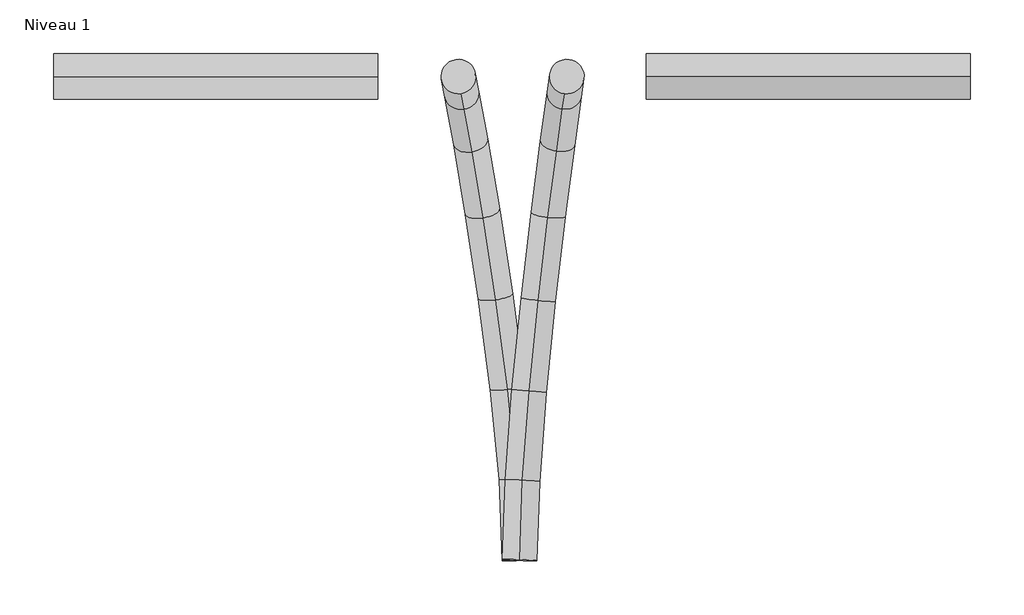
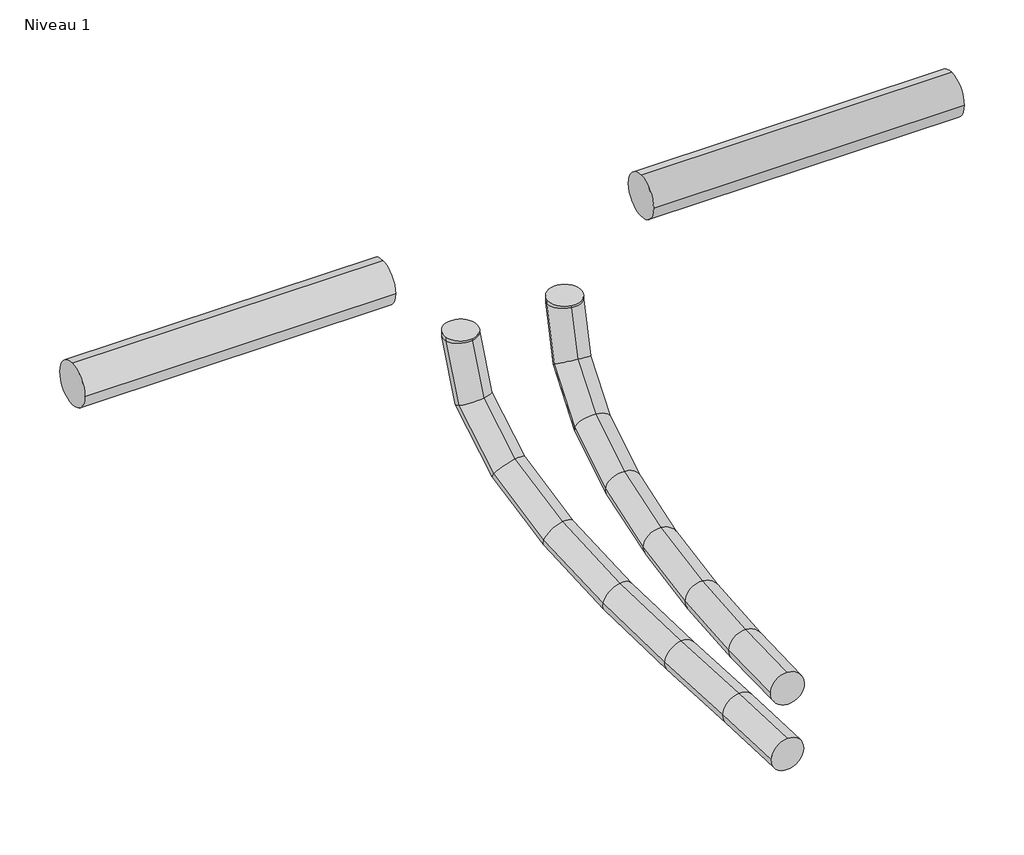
# One storey, incomplete: 4 pipe segments.
"""IFC4 building model written with IfcOpenShell, lengths in millimetres."""

from ifc_helpers import new_model, si_unit, point, frame, frame_2d, origin, place, context, project, spatial, circle_curve, ellipse_curve, trimmed, segment, composite_curve, outline, extrude, element, save
from ifc_brep_helpers import plane_surface, cylinder_surface, advanced_brep

model = new_model("IFC4")

# Units and contexts
model_context = context("Model", 3, world=origin())
ifc_project = project(units=[si_unit("LENGTHUNIT", "METRE", prefix="MILLI")], contexts=[model_context])

# Site, building, storey
site = spatial("IfcSite", under=ifc_project)
building = spatial("IfcBuilding", under=site)
storey = spatial("IfcBuildingStorey", under=building, Name="Niveau 1", Elevation=0.0)

# Pipe segments
placement = place(None, origin())
element("IfcPipeSegment", 1, ObjectType="Souple - Circulaire", at=placement, inside=storey, context=model_context, shape_type="AdvancedBrep", body=[
    advanced_brep(
    [(-1216.3874721, -8798.1882314, 609.8282029), (-1200.4090751, -8799.1079695, 593.8330502), (-1184.4047781, -8799.240506, 609.8282029), (-1200.3831751, -8798.3207679, 625.8233557), (-1213.9533042, -8724.2044519, 608.0056759), (-1197.9879974, -8725.5220509, 592.0203242), (-1181.9927997, -8725.9311526, 608.0222898), (-1197.9581065, -8724.6135535, 624.0076416), (-1172.5122952, -8348.0022131, 723.8970087), (-1158.7726143, -8365.9805659, 723.8970087), (-1140.7942615, -8352.240885, 723.8970087), (-1154.5339424, -8334.2625322, 723.8970087), (-1207.6638719, -8640.6052786, 605.3070948), (-1191.7201115, -8642.2092726, 589.3309879), (-1175.7842758, -8643.4074142, 605.3584238), (-1191.7280362, -8641.8034202, 621.3345307), (-1199.0856646, -8555.355471, 605.9033641), (-1183.0696164, -8556.2410728, 589.9322819), (-1167.2734409, -8558.82715, 605.95001), (-1183.2894891, -8557.9415483, 621.9210922), (-1189.7495689, -8475.9236058, 613.9373105), (-1173.4998418, -8474.8210585, 598.1673148), (-1157.9901325, -8479.8444016, 613.9385315), (-1174.2398596, -8480.9469489, 629.7085272), (-1181.1871297, -8409.8470625, 633.5490458), (-1164.3992138, -8404.5912997, 619.0117382), (-1149.4635295, -8414.0444075, 633.4681862), (-1166.2514454, -8419.3001703, 648.0054938), (-1174.9335761, -8364.7061135, 668.847183), (-1157.2967987, -8353.3228886, 659.1012677), (-1143.2191269, -8368.969514, 668.7146709), (-1160.8559042, -8380.3527389, 678.4605863), (-1172.5122952, -8348.0022131, 719.2377922), (-1154.5339424, -8334.2625322, 716.6005912), (-1140.7942615, -8352.240885, 719.179879), (-1158.7726143, -8365.9805659, 721.81708)],
    [
        (0, 1, circle_curve(frame((-1200.3961251, -8798.7143687, 609.8282029), z_axis=(-0.03287361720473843, -0.9991563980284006, 0.024613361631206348), x_axis=(-0.9994591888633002, 0.0328835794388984, 0.0)), 16.0)),
        (1, 2, circle_curve(frame((-1200.3961251, -8798.7143687, 609.8282029), z_axis=(-0.03287361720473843, -0.9991563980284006, 0.024613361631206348), x_axis=(-0.9994591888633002, 0.0328835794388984, 0.0)), 16.0)),
        (2, 3, circle_curve(frame((-1200.3961251, -8798.7143687, 609.8282029), z_axis=(-0.03287361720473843, -0.9991563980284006, 0.024613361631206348), x_axis=(-0.9994591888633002, 0.0328835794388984, 0.0)), 16.0)),
        (3, 0, circle_curve(frame((-1200.3961251, -8798.7143687, 609.8282029), z_axis=(-0.03287361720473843, -0.9991563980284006, 0.024613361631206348), x_axis=(-0.9994591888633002, 0.0328835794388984, 0.0)), 16.0)),
        (0, 4),
        (4, 5, ellipse_curve(frame((-1197.973052, -8725.0678022, 608.0139829), z_axis=(-0.05394036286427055, -0.9981402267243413, 0.028399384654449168), x_axis=(0.9826032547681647, -0.05811939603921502, -0.17638871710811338)), 16.0036742, 16.0)),
        (5, 1),
        (5, 6, ellipse_curve(frame((-1197.973052, -8725.0678022, 608.0139829), z_axis=(-0.05394036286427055, -0.9981402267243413, 0.028399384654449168), x_axis=(0.9826032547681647, -0.05811939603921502, -0.17638871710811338)), 16.0036742, 16.0)),
        (6, 2),
        (6, 7, ellipse_curve(frame((-1197.973052, -8725.0678022, 608.0139829), z_axis=(-0.05394036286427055, -0.9981402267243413, 0.028399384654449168), x_axis=(0.9826032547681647, -0.05811939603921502, -0.17638871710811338)), 16.0036742, 16.0)),
        (7, 3),
        (7, 4, ellipse_curve(frame((-1197.973052, -8725.0678022, 608.0139829), z_axis=(-0.05394036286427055, -0.9981402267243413, 0.028399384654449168), x_axis=(0.9826032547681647, -0.05811939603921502, -0.17638871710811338)), 16.0036742, 16.0)),
        (8, 9, circle_curve(frame((-1156.6532783, -8350.1215491, 723.8970087), z_axis=(0.0, 0.0, 1.0), x_axis=(-0.9911885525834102, 0.13245849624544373, 0.0)), 16.0)),
        (9, 10, circle_curve(frame((-1156.6532783, -8350.1215491, 723.8970087), z_axis=(0.0, 0.0, 1.0), x_axis=(-0.9911885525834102, 0.13245849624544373, 0.0)), 16.0)),
        (10, 11, circle_curve(frame((-1156.6532783, -8350.1215491, 723.8970087), z_axis=(0.0, 0.0, 1.0), x_axis=(-0.9911885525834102, 0.13245849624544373, 0.0)), 16.0)),
        (11, 8, circle_curve(frame((-1156.6532783, -8350.1215491, 723.8970087), z_axis=(0.0, 0.0, 1.0), x_axis=(-0.9911885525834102, 0.13245849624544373, 0.0)), 16.0)),
        (4, 12),
        (12, 13, ellipse_curve(frame((-1191.7240738, -8642.0063464, 605.3327593), z_axis=(-0.08757305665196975, -0.9960782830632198, 0.012610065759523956), x_axis=(0.5400573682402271, -0.03683611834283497, 0.8408217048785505)), 16.0043336, 16.0)),
        (13, 5),
        (13, 14, ellipse_curve(frame((-1191.7240738, -8642.0063464, 605.3327593), z_axis=(-0.08757305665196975, -0.9960782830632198, 0.012610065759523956), x_axis=(0.5400573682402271, -0.03683611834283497, 0.8408217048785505)), 16.0043336, 16.0)),
        (14, 6),
        (14, 15, ellipse_curve(frame((-1191.7240738, -8642.0063464, 605.3327593), z_axis=(-0.08757305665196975, -0.9960782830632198, 0.012610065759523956), x_axis=(0.5400573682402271, -0.03683611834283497, 0.8408217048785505)), 16.0043336, 16.0)),
        (15, 7),
        (15, 12, ellipse_curve(frame((-1191.7240738, -8642.0063464, 605.3327593), z_axis=(-0.08757305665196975, -0.9960782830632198, 0.012610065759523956), x_axis=(0.5400573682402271, -0.03683611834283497, 0.8408217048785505)), 16.0043336, 16.0)),
        (12, 16),
        (16, 17, ellipse_curve(frame((-1183.1795528, -8557.0913105, 605.9266871), z_axis=(-0.10825326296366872, -0.9926819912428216, -0.053513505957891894), x_axis=(0.16946101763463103, -0.07146839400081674, 0.9829421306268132)), 16.0179295, 16.0)),
        (17, 13),
        (17, 18, ellipse_curve(frame((-1183.1795528, -8557.0913105, 605.9266871), z_axis=(-0.10825326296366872, -0.9926819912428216, -0.053513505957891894), x_axis=(0.16946101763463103, -0.07146839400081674, 0.9829421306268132)), 16.0179295, 16.0)),
        (18, 14),
        (18, 19, ellipse_curve(frame((-1183.1795528, -8557.0913105, 605.9266871), z_axis=(-0.10825326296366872, -0.9926819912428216, -0.053513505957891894), x_axis=(0.16946101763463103, -0.07146839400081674, 0.9829421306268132)), 16.0179295, 16.0)),
        (19, 15),
        (19, 16, ellipse_curve(frame((-1183.1795528, -8557.0913105, 605.9266871), z_axis=(-0.10825326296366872, -0.9926819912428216, -0.053513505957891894), x_axis=(0.16946101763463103, -0.07146839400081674, 0.9829421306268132)), 16.0179295, 16.0)),
        (16, 20),
        (20, 21, ellipse_curve(frame((-1173.8698507, -8477.8840037, 613.937921), z_axis=(-0.1202362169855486, -0.974003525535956, -0.19199058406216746), x_axis=(0.03829526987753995, -0.19780021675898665, 0.979494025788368)), 16.0698217, 16.0)),
        (21, 17),
        (21, 22, ellipse_curve(frame((-1173.8698507, -8477.8840037, 613.937921), z_axis=(-0.1202362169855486, -0.974003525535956, -0.19199058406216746), x_axis=(0.03829526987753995, -0.19780021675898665, 0.979494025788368)), 16.0698217, 16.0)),
        (22, 18),
        (22, 23, ellipse_curve(frame((-1173.8698507, -8477.8840037, 613.937921), z_axis=(-0.1202362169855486, -0.974003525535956, -0.19199058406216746), x_axis=(0.03829526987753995, -0.19780021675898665, 0.979494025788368)), 16.0698217, 16.0)),
        (23, 19),
        (23, 20, ellipse_curve(frame((-1173.8698507, -8477.8840037, 613.937921), z_axis=(-0.1202362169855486, -0.974003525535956, -0.19199058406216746), x_axis=(0.03829526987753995, -0.19780021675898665, 0.979494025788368)), 16.0698217, 16.0)),
        (20, 24),
        (24, 25, ellipse_curve(frame((-1165.3253296, -8411.945735, 633.508616), z_axis=(-0.1179266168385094, -0.8825211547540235, -0.4552468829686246), x_axis=(-0.03990572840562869, -0.4538637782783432, 0.8901770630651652)), 16.2821263, 16.0)),
        (25, 21),
        (25, 26, ellipse_curve(frame((-1165.3253296, -8411.945735, 633.508616), z_axis=(-0.1179266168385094, -0.8825211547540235, -0.4552468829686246), x_axis=(-0.03990572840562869, -0.4538637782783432, 0.8901770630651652)), 16.2821263, 16.0)),
        (26, 22),
        (26, 27, ellipse_curve(frame((-1165.3253296, -8411.945735, 633.508616), z_axis=(-0.1179266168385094, -0.8825211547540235, -0.4552468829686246), x_axis=(-0.03990572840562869, -0.4538637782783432, 0.8901770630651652)), 16.2821263, 16.0)),
        (27, 23),
        (27, 24, ellipse_curve(frame((-1165.3253296, -8411.945735, 633.508616), z_axis=(-0.1179266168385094, -0.8825211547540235, -0.4552468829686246), x_axis=(-0.03990572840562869, -0.4538637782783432, 0.8901770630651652)), 16.2821263, 16.0)),
        (24, 28),
        (28, 29, ellipse_curve(frame((-1159.0763515, -8366.8378138, 668.780927), z_axis=(-0.08048449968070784, -0.5733637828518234, -0.8153381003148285), x_axis=(-0.10847055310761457, -0.8080955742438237, 0.5789781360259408)), 16.7187296, 16.0)),
        (29, 25),
        (29, 30, ellipse_curve(frame((-1159.0763515, -8366.8378138, 668.780927), z_axis=(-0.08048449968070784, -0.5733637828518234, -0.8153381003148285), x_axis=(-0.10847055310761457, -0.8080955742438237, 0.5789781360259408)), 16.7187296, 16.0)),
        (30, 26),
        (30, 31, ellipse_curve(frame((-1159.0763515, -8366.8378138, 668.780927), z_axis=(-0.08048449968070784, -0.5733637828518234, -0.8153381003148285), x_axis=(-0.10847055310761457, -0.8080955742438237, 0.5789781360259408)), 16.7187296, 16.0)),
        (31, 27),
        (31, 28, ellipse_curve(frame((-1159.0763515, -8366.8378138, 668.780927), z_axis=(-0.08048449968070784, -0.5733637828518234, -0.8153381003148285), x_axis=(-0.10847055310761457, -0.8080955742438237, 0.5789781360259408)), 16.7187296, 16.0)),
        (28, 32),
        (32, 33, ellipse_curve(frame((-1156.6532783, -8350.1215491, 719.2088356), z_axis=(-0.023081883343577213, -0.15923698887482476, -0.9869705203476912), x_axis=(-0.14158465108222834, -0.9767623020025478, 0.16090118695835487)), 16.2112238, 16.0)),
        (33, 29),
        (33, 34, ellipse_curve(frame((-1156.6532783, -8350.1215491, 719.2088356), z_axis=(-0.023081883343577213, -0.15923698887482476, -0.9869705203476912), x_axis=(-0.14158465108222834, -0.9767623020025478, 0.16090118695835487)), 16.2112238, 16.0)),
        (34, 30),
        (34, 35, ellipse_curve(frame((-1156.6532783, -8350.1215491, 719.2088356), z_axis=(-0.023081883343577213, -0.15923698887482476, -0.9869705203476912), x_axis=(-0.14158465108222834, -0.9767623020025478, 0.16090118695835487)), 16.2112238, 16.0)),
        (35, 31),
        (35, 32, ellipse_curve(frame((-1156.6532783, -8350.1215491, 719.2088356), z_axis=(-0.023081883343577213, -0.15923698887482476, -0.9869705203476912), x_axis=(-0.14158465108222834, -0.9767623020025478, 0.16090118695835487)), 16.2112238, 16.0)),
        (32, 8),
        (11, 33),
        (10, 34),
        (9, 35),
    ],
    [
        plane_surface(frame((-1200.3961251, -8798.3203419, 625.8233504), z_axis=(-0.032873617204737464, -0.9991563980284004, 0.024613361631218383), x_axis=(0.9994595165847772, -0.03286364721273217, 0.0008095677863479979))),
        cylinder_surface(frame((-1200.3961251, -8798.7143687, 609.8282029), z_axis=(-0.032873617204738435, -0.9991563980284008, 0.024613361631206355), x_axis=(-0.9994591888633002, 0.0328835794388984, 0.0)), 16.0),
        plane_surface(frame((-1156.6532783, -8366.1215491, 723.8970087), z_axis=(0.0, 0.0, 1.0), x_axis=(1.0, 0.0, 0.0))),
        cylinder_surface(frame((-1197.973052, -8725.0678022, 608.0139829), z_axis=(-0.07498234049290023, -0.9966657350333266, 0.03217236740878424), x_axis=(-0.9971841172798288, 0.07498267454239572, -0.0011978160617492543)), 16.0),
        cylinder_surface(frame((-1191.7240738, -8642.0063464, 605.3327593), z_axis=(-0.10011634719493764, -0.994951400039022, -0.00695906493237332), x_axis=(-0.9949732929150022, 0.10012915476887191, -0.0015161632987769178)), 16.0),
        cylinder_surface(frame((-1183.1795528, -8557.0913105, 605.9266871), z_axis=(-0.11614783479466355, -0.9881902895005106, -0.09994814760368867), x_axis=(-0.9931559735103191, 0.11679396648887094, -0.0006177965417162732)), 16.0),
        cylinder_surface(frame((-1173.8698507, -8477.8840037, 613.937921), z_axis=(-0.12327977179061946, -0.9513528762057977, -0.28236466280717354), x_axis=(-0.991767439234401, 0.12804213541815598, 0.0015993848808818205)), 16.0),
        cylinder_surface(frame((-1165.3253296, -8411.945735, 633.508616), z_axis=(-0.10848674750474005, -0.7831059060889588, -0.6123526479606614), x_axis=(-0.9910061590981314, 0.13373928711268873, 0.004538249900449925)), 16.0),
        cylinder_surface(frame((-1159.0763515, -8366.8378138, 668.780927), z_axis=(-0.045562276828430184, -0.3143244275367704, -0.9482216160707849), x_axis=(-0.9911060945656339, 0.13302735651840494, 0.0035258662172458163)), 16.0),
        cylinder_surface(frame((-1156.6532783, -8350.1215491, 719.2088356), z_axis=(0.0, 0.0, -1.0), x_axis=(-0.9911885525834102, 0.13245849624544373, 0.0)), 16.0),
    ],
    [
        (0, [[1, 2, 3, 4]]),
        (1, [[-1, 5, 6, 7]]),
        (1, [[-2, -7, 8, 9]]),
        (1, [[-3, -9, 10, 11]]),
        (1, [[-4, -11, 12, -5]]),
        (2, [[13, 14, 15, 16]]),
        (3, [[-6, 17, 18, 19]]),
        (3, [[-8, -19, 20, 21]]),
        (3, [[-10, -21, 22, 23]]),
        (3, [[-12, -23, 24, -17]]),
        (4, [[-18, 25, 26, 27]]),
        (4, [[-20, -27, 28, 29]]),
        (4, [[-22, -29, 30, 31]]),
        (4, [[-24, -31, 32, -25]]),
        (5, [[-26, 33, 34, 35]]),
        (5, [[-28, -35, 36, 37]]),
        (5, [[-30, -37, 38, 39]]),
        (5, [[-32, -39, 40, -33]]),
        (6, [[-34, 41, 42, 43]]),
        (6, [[-36, -43, 44, 45]]),
        (6, [[-38, -45, 46, 47]]),
        (6, [[-40, -47, 48, -41]]),
        (7, [[-42, 49, 50, 51]]),
        (7, [[-44, -51, 52, 53]]),
        (7, [[-46, -53, 54, 55]]),
        (7, [[-48, -55, 56, -49]]),
        (8, [[-50, 57, 58, 59]]),
        (8, [[-52, -59, 60, 61]]),
        (8, [[-54, -61, 62, 63]]),
        (8, [[-56, -63, 64, -57]]),
        (9, [[-58, 65, -16, 66]]),
        (9, [[-60, -66, -15, 67]]),
        (9, [[-62, -67, -14, 68]]),
        (9, [[-64, -68, -13, -65]]),
    ],
),
])
element("IfcPipeSegment", 2, ObjectType="Souple - Circulaire", at=placement, inside=storey, context=model_context, shape_type="AdvancedBrep", body=[
    advanced_brep(
    [(-1216.3824206, -8799.376454, 542.6011432), (-1200.4093011, -8798.3962286, 526.6043118), (-1184.4098296, -8798.0522834, 542.6011432), (-1200.3829491, -8799.0325088, 558.5979745), (-1219.5108063, -8723.8404173, 544.1059577), (-1203.5727709, -8722.0130765, 528.1260024), (-1187.5745318, -8721.6393725, 544.1234266), (-1203.5125673, -8723.4667133, 560.1033819), (-1272.9987676, -8352.6481905, 723.7490798), (-1254.672883, -8365.9207922, 723.7490798), (-1241.4002814, -8347.5949076, 723.7490798), (-1259.7261659, -8334.322306, 723.7490798), (-1227.5579167, -8640.5737791, 550.0521734), (-1211.7853153, -8637.0346264, 534.1944616), (-1195.7569641, -8636.9725045, 550.1696352), (-1211.5295656, -8640.5116571, 566.027347), (-1238.5975115, -8556.2168474, 562.6503612), (-1223.0804993, -8550.7246596, 547.0843231), (-1206.9087848, -8551.7580207, 562.8958931), (-1222.4257971, -8557.2502085, 578.4619311), (-1250.6467842, -8478.0455376, 584.0906239), (-1235.5382087, -8469.9035602, 569.251351), (-1219.0382186, -8473.0666551, 584.478793), (-1234.1467941, -8481.2086324, 599.3180659), (-1261.723291, -8413.2542092, 616.578594), (-1247.2790771, -8401.2260905, 603.6879282), (-1230.1531273, -8408.0506971, 617.0793978), (-1244.5973412, -8420.0788158, 629.9700636), (-1269.8443749, -8369.0172, 662.3745321), (-1256.2452305, -8352.3858352, 654.2493326), (-1238.2615861, -8363.8824584, 662.804142), (-1251.8607305, -8380.5138232, 670.9293416), (-1272.9987676, -8352.6481905, 719.4785224), (-1259.7261659, -8334.322306, 717.2647278), (-1241.4002814, -8347.5949076, 719.6239602), (-1254.672883, -8365.9207922, 721.8377549)],
    [
        (0, 1, circle_curve(frame((-1200.3961251, -8798.7143687, 542.6011432), z_axis=(0.04137213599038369, -0.9989455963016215, -0.019900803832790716), x_axis=(-0.9991434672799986, -0.041380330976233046, 0.0)), 16.0)),
        (1, 2, circle_curve(frame((-1200.3961251, -8798.7143687, 542.6011432), z_axis=(0.04137213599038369, -0.9989455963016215, -0.019900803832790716), x_axis=(-0.9991434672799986, -0.041380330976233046, 0.0)), 16.0)),
        (2, 3, circle_curve(frame((-1200.3961251, -8798.7143687, 542.6011432), z_axis=(0.04137213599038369, -0.9989455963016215, -0.019900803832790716), x_axis=(-0.9991434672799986, -0.041380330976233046, 0.0)), 16.0)),
        (3, 0, circle_curve(frame((-1200.3961251, -8798.7143687, 542.6011432), z_axis=(0.04137213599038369, -0.9989455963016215, -0.019900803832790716), x_axis=(-0.9991434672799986, -0.041380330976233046, 0.0)), 16.0)),
        (0, 4),
        (4, 5, ellipse_curve(frame((-1203.5426691, -8722.7398949, 544.1146922), z_axis=(0.06871053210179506, -0.9966015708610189, -0.04543315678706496), x_axis=(-0.7282445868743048, -0.08123076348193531, 0.6804861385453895)), 16.0112462, 16.0)),
        (5, 1),
        (5, 6, ellipse_curve(frame((-1203.5426691, -8722.7398949, 544.1146922), z_axis=(0.06871053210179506, -0.9966015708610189, -0.04543315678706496), x_axis=(-0.7282445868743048, -0.08123076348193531, 0.6804861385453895)), 16.0112462, 16.0)),
        (6, 2),
        (6, 7, ellipse_curve(frame((-1203.5426691, -8722.7398949, 544.1146922), z_axis=(0.06871053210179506, -0.9966015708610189, -0.04543315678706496), x_axis=(-0.7282445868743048, -0.08123076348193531, 0.6804861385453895)), 16.0112462, 16.0)),
        (7, 3),
        (7, 4, ellipse_curve(frame((-1203.5426691, -8722.7398949, 544.1146922), z_axis=(0.06871053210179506, -0.9966015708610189, -0.04543315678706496), x_axis=(-0.7282445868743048, -0.08123076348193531, 0.6804861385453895)), 16.0112462, 16.0)),
        (8, 9, circle_curve(frame((-1257.1995245, -8350.1215491, 723.7490798), z_axis=(0.0, 0.0, 1.0), x_axis=(-0.987452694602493, -0.1579150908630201, 0.0)), 16.0)),
        (9, 10, circle_curve(frame((-1257.1995245, -8350.1215491, 723.7490798), z_axis=(0.0, 0.0, 1.0), x_axis=(-0.987452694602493, -0.1579150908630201, 0.0)), 16.0)),
        (10, 11, circle_curve(frame((-1257.1995245, -8350.1215491, 723.7490798), z_axis=(0.0, 0.0, 1.0), x_axis=(-0.987452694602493, -0.1579150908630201, 0.0)), 16.0)),
        (11, 8, circle_curve(frame((-1257.1995245, -8350.1215491, 723.7490798), z_axis=(0.0, 0.0, 1.0), x_axis=(-0.987452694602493, -0.1579150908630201, 0.0)), 16.0)),
        (4, 12),
        (12, 13, ellipse_curve(frame((-1211.6574404, -8638.7731418, 550.1109043), z_axis=(0.11225390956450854, -0.9877066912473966, -0.10878672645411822), x_axis=(-0.3899560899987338, -0.14448393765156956, 0.909427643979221)), 16.0138323, 16.0)),
        (13, 5),
        (13, 14, ellipse_curve(frame((-1211.6574404, -8638.7731418, 550.1109043), z_axis=(0.11225390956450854, -0.9877066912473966, -0.10878672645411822), x_axis=(-0.3899560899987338, -0.14448393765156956, 0.909427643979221)), 16.0138323, 16.0)),
        (14, 6),
        (14, 15, ellipse_curve(frame((-1211.6574404, -8638.7731418, 550.1109043), z_axis=(0.11225390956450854, -0.9877066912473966, -0.10878672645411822), x_axis=(-0.3899560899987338, -0.14448393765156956, 0.909427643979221)), 16.0138323, 16.0)),
        (15, 7),
        (15, 12, ellipse_curve(frame((-1211.6574404, -8638.7731418, 550.1109043), z_axis=(0.11225390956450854, -0.9877066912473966, -0.10878672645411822), x_axis=(-0.3899560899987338, -0.14448393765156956, 0.909427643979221)), 16.0138323, 16.0)),
        (12, 16),
        (16, 17, ellipse_curve(frame((-1222.7531482, -8553.9874341, 562.7731271), z_axis=(0.13794510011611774, -0.9691141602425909, -0.20442332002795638), x_axis=(-0.15596539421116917, -0.22507603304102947, 0.9617773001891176)), 16.0287439, 16.0)),
        (17, 13),
        (17, 18, ellipse_curve(frame((-1222.7531482, -8553.9874341, 562.7731271), z_axis=(0.13794510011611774, -0.9691141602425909, -0.20442332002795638), x_axis=(-0.15596539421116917, -0.22507603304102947, 0.9617773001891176)), 16.0287439, 16.0)),
        (18, 14),
        (18, 19, ellipse_curve(frame((-1222.7531482, -8553.9874341, 562.7731271), z_axis=(0.13794510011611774, -0.9691141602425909, -0.20442332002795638), x_axis=(-0.15596539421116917, -0.22507603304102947, 0.9617773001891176)), 16.0287439, 16.0)),
        (19, 15),
        (19, 16, ellipse_curve(frame((-1222.7531482, -8553.9874341, 562.7731271), z_axis=(0.13794510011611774, -0.9691141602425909, -0.20442332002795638), x_axis=(-0.15596539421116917, -0.22507603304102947, 0.9617773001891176)), 16.0287439, 16.0)),
        (16, 20),
        (20, 21, ellipse_curve(frame((-1234.8425014, -8475.5560963, 584.2847084), z_axis=(0.14976135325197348, -0.9231618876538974, -0.3540390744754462), x_axis=(-0.020723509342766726, -0.36092958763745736, 0.9323627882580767)), 16.0762978, 16.0)),
        (21, 17),
        (21, 22, ellipse_curve(frame((-1234.8425014, -8475.5560963, 584.2847084), z_axis=(0.14976135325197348, -0.9231618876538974, -0.3540390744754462), x_axis=(-0.020723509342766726, -0.36092958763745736, 0.9323627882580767)), 16.0762978, 16.0)),
        (22, 18),
        (22, 23, ellipse_curve(frame((-1234.8425014, -8475.5560963, 584.2847084), z_axis=(0.14976135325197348, -0.9231618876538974, -0.3540390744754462), x_axis=(-0.020723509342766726, -0.36092958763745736, 0.9323627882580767)), 16.0762978, 16.0)),
        (23, 19),
        (23, 20, ellipse_curve(frame((-1234.8425014, -8475.5560963, 584.2847084), z_axis=(0.14976135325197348, -0.9231618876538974, -0.3540390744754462), x_axis=(-0.020723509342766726, -0.36092958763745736, 0.9323627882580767)), 16.0762978, 16.0)),
        (20, 24),
        (24, 25, ellipse_curve(frame((-1245.9382092, -8410.6524532, 616.8289959), z_axis=(0.1407698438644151, -0.7976152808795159, -0.5865097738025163), x_axis=(0.07350443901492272, -0.5823538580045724, 0.8096055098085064)), 16.2278324, 16.0)),
        (25, 21),
        (25, 26, ellipse_curve(frame((-1245.9382092, -8410.6524532, 616.8289959), z_axis=(0.1407698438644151, -0.7976152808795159, -0.5865097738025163), x_axis=(0.07350443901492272, -0.5823538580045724, 0.8096055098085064)), 16.2278324, 16.0)),
        (26, 22),
        (26, 27, ellipse_curve(frame((-1245.9382092, -8410.6524532, 616.8289959), z_axis=(0.1407698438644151, -0.7976152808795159, -0.5865097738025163), x_axis=(0.07350443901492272, -0.5823538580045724, 0.8096055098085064)), 16.2278324, 16.0)),
        (27, 23),
        (27, 24, ellipse_curve(frame((-1245.9382092, -8410.6524532, 616.8289959), z_axis=(0.1407698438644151, -0.7976152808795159, -0.5865097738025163), x_axis=(0.07350443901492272, -0.5823538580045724, 0.8096055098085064)), 16.2278324, 16.0)),
        (24, 28),
        (28, 29, ellipse_curve(frame((-1254.0529805, -8366.4498292, 662.5893371), z_axis=(0.09256361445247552, -0.49716026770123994, -0.862707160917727), x_axis=(0.15078918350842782, -0.849434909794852, 0.5056905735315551)), 16.4973704, 16.0)),
        (29, 25),
        (29, 30, ellipse_curve(frame((-1254.0529805, -8366.4498292, 662.5893371), z_axis=(0.09256361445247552, -0.49716026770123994, -0.862707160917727), x_axis=(0.15078918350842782, -0.849434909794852, 0.5056905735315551)), 16.4973704, 16.0)),
        (30, 26),
        (30, 31, ellipse_curve(frame((-1254.0529805, -8366.4498292, 662.5893371), z_axis=(0.09256361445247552, -0.49716026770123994, -0.862707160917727), x_axis=(0.15078918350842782, -0.849434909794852, 0.5056905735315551)), 16.4973704, 16.0)),
        (31, 27),
        (31, 28, ellipse_curve(frame((-1254.0529805, -8366.4498292, 662.5893371), z_axis=(0.09256361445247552, -0.49716026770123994, -0.862707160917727), x_axis=(0.15078918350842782, -0.849434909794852, 0.5056905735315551)), 16.4973704, 16.0)),
        (28, 32),
        (32, 33, ellipse_curve(frame((-1257.1995245, -8350.1215491, 719.5512413), z_axis=(0.02678271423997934, -0.13898285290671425, -0.9899325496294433), x_axis=(0.1873187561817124, -0.9720484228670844, 0.14153991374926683)), 16.1627174, 16.0)),
        (33, 29),
        (33, 34, ellipse_curve(frame((-1257.1995245, -8350.1215491, 719.5512413), z_axis=(0.02678271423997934, -0.13898285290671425, -0.9899325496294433), x_axis=(0.1873187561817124, -0.9720484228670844, 0.14153991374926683)), 16.1627174, 16.0)),
        (34, 30),
        (34, 35, ellipse_curve(frame((-1257.1995245, -8350.1215491, 719.5512413), z_axis=(0.02678271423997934, -0.13898285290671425, -0.9899325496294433), x_axis=(0.1873187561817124, -0.9720484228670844, 0.14153991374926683)), 16.1627174, 16.0)),
        (35, 31),
        (35, 32, ellipse_curve(frame((-1257.1995245, -8350.1215491, 719.5512413), z_axis=(0.02678271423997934, -0.13898285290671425, -0.9899325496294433), x_axis=(0.1873187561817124, -0.9720484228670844, 0.14153991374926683)), 16.1627174, 16.0)),
        (32, 8),
        (11, 33),
        (10, 34),
        (9, 35),
    ],
    [
        plane_surface(frame((-1200.3961251, -8799.0330544, 558.5979691), z_axis=(0.041372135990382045, -0.9989455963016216, -0.01990080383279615), x_axis=(0.999143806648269, 0.04136392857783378, 0.0008240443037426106))),
        cylinder_surface(frame((-1200.3961251, -8798.7143687, 542.6011432), z_axis=(0.04137213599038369, -0.9989455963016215, -0.019900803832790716), x_axis=(-0.9991434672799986, -0.041380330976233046, 0.0)), 16.0),
        plane_surface(frame((-1257.1995245, -8366.1215491, 723.7490798), z_axis=(0.0, 0.0, 1.0), x_axis=(1.0, 0.0, 0.0))),
        cylinder_surface(frame((-1203.5426691, -8722.7398949, 544.1146922), z_axis=(0.09595240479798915, -0.99285753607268, -0.07090168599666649), x_axis=(-0.9953764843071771, -0.09601796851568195, -0.0024908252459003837)), 16.0),
        cylinder_surface(frame((-1211.6574404, -8638.7731418, 550.1109043), z_axis=(0.12836149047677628, -0.9808495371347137, -0.1464838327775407), x_axis=(-0.9916437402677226, -0.12886186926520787, -0.0061082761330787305)), 16.0),
        cylinder_surface(frame((-1222.7531482, -8553.9874341, 562.7731271), z_axis=(0.1470339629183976, -0.9539030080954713, -0.2616296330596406), x_axis=(-0.9887022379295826, -0.14952698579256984, -0.010467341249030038)), 16.0),
        cylinder_surface(frame((-1234.8425014, -8475.5560963, 584.2847084), z_axis=(0.15106721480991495, -0.8836581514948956, -0.44308799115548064), x_axis=(-0.9868074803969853, -0.16120668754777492, -0.014946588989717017)), 16.0),
        cylinder_surface(frame((-1245.9382092, -8410.6524532, 616.8289959), z_axis=(0.126519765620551, -0.6891759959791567, -0.7134628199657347), x_axis=(-0.98636673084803, -0.1637040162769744, -0.01678294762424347)), 16.0),
        cylinder_surface(frame((-1254.0529805, -8366.4498292, 662.5893371), z_axis=(0.053026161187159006, -0.2751672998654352, -0.9599329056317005), x_axis=(-0.9872116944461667, -0.15916570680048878, -0.008907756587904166)), 16.0),
        cylinder_surface(frame((-1257.1995245, -8350.1215491, 719.5512413), z_axis=(0.0, 0.0, -1.0), x_axis=(-0.987452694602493, -0.1579150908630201, 0.0)), 16.0),
    ],
    [
        (0, [[1, 2, 3, 4]]),
        (1, [[-1, 5, 6, 7]]),
        (1, [[-2, -7, 8, 9]]),
        (1, [[-3, -9, 10, 11]]),
        (1, [[-4, -11, 12, -5]]),
        (2, [[13, 14, 15, 16]]),
        (3, [[-6, 17, 18, 19]]),
        (3, [[-8, -19, 20, 21]]),
        (3, [[-10, -21, 22, 23]]),
        (3, [[-12, -23, 24, -17]]),
        (4, [[-18, 25, 26, 27]]),
        (4, [[-20, -27, 28, 29]]),
        (4, [[-22, -29, 30, 31]]),
        (4, [[-24, -31, 32, -25]]),
        (5, [[-26, 33, 34, 35]]),
        (5, [[-28, -35, 36, 37]]),
        (5, [[-30, -37, 38, 39]]),
        (5, [[-32, -39, 40, -33]]),
        (6, [[-34, 41, 42, 43]]),
        (6, [[-36, -43, 44, 45]]),
        (6, [[-38, -45, 46, 47]]),
        (6, [[-40, -47, 48, -41]]),
        (7, [[-42, 49, 50, 51]]),
        (7, [[-44, -51, 52, 53]]),
        (7, [[-46, -53, 54, 55]]),
        (7, [[-48, -55, 56, -49]]),
        (8, [[-50, 57, 58, 59]]),
        (8, [[-52, -59, 60, 61]]),
        (8, [[-54, -61, 62, 63]]),
        (8, [[-56, -63, 64, -57]]),
        (9, [[-58, 65, -16, 66]]),
        (9, [[-60, -66, -15, 67]]),
        (9, [[-62, -67, -14, 68]]),
        (9, [[-64, -68, -13, -65]]),
    ],
),
])
element("IfcPipeSegment", 3, ObjectType="Standard", at=placement, inside=storey, context=model_context, shape_type="SweptSolid", body=[
    extrude(outline(composite_curve([segment(trimmed(circle_curve(frame_2d((-8350.1215491, 800.0)), 21.082), [point((-8371.2035491, 800.0))], [point((-8350.1215491, 821.082))], False, "CARTESIAN"), True, "CONTINUOUS"), segment(trimmed(circle_curve(frame_2d((-8350.1215491, 800.0)), 21.082), [point((-8350.1215491, 821.082))], [point((-8329.0395491, 800.0))], False, "CARTESIAN"), True, "CONTINUOUS"), segment(trimmed(circle_curve(frame_2d((-8350.1215491, 800.0)), 21.082), [point((-8329.0395491, 800.0))], [point((-8350.1215491, 778.918))], False, "CARTESIAN"), True, "CONTINUOUS"), segment(trimmed(circle_curve(frame_2d((-8350.1215491, 800.0)), 21.082), [point((-8350.1215491, 778.918))], [point((-8371.2035491, 800.0))], False, "CARTESIAN"), True, "CONTINUOUS")], self_intersect=False)), frame((-1082.8367099, 0.0, 0.0), z_axis=(1.0, 0.0, 0.0), x_axis=(0.0, 1.0, 0.0)), (0.0, 0.0, 1.0), 300.0),
])
element("IfcPipeSegment", 4, ObjectType="Standard", at=placement, inside=storey, context=model_context, shape_type="SweptSolid", body=[
    extrude(outline(composite_curve([segment(trimmed(circle_curve(frame_2d((-8350.1215491, 800.0)), 21.082), [point((-8329.0395491, 800.0))], [point((-8350.1215491, 778.918))], False, "CARTESIAN"), True, "CONTINUOUS"), segment(trimmed(circle_curve(frame_2d((-8350.1215491, 800.0)), 21.082), [point((-8350.1215491, 778.918))], [point((-8371.2035491, 800.0))], False, "CARTESIAN"), True, "CONTINUOUS"), segment(trimmed(circle_curve(frame_2d((-8350.1215491, 800.0)), 21.082), [point((-8371.2035491, 800.0))], [point((-8350.1215491, 821.082))], False, "CARTESIAN"), True, "CONTINUOUS"), segment(trimmed(circle_curve(frame_2d((-8350.1215491, 800.0)), 21.082), [point((-8350.1215491, 821.082))], [point((-8329.0395491, 800.0))], False, "CARTESIAN"), True, "CONTINUOUS")], self_intersect=False)), frame((-1632.1995245, 0.0, 0.0), z_axis=(1.0, 0.0, 0.0), x_axis=(0.0, 1.0, 0.0)), (0.0, 0.0, 1.0), 300.0),
])

save(model, "model.ifc")
